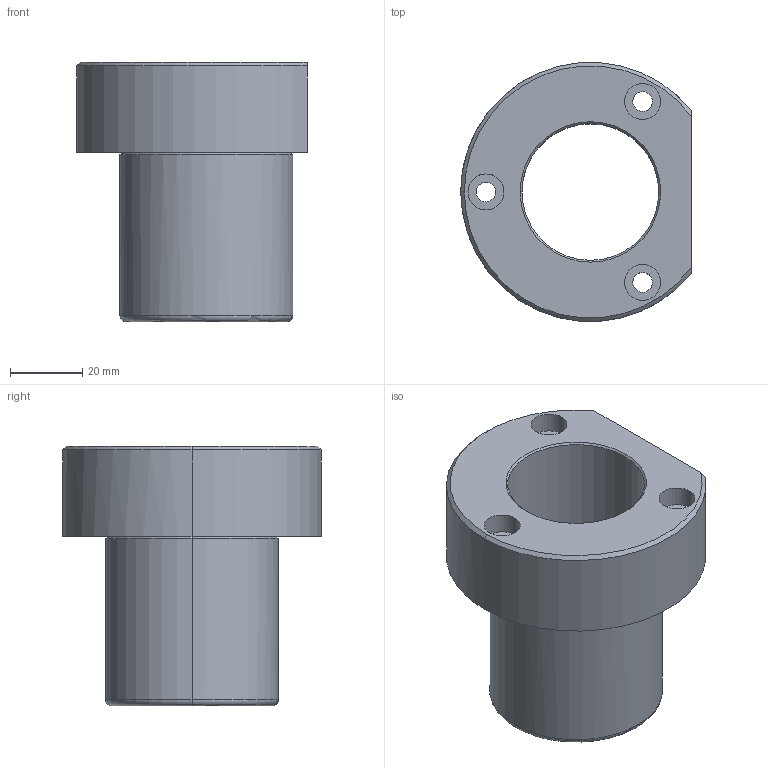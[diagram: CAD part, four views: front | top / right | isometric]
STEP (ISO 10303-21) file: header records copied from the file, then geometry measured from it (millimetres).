
FILE_DESCRIPTION(('CATIA V5 STEP Exchange'),'2;1');
FILE_NAME('C:\Users\Utente\Desktop\IO LAVORO\3D X SITO CF\X SITO\737\737-30.stp','2021-01-17T17:04:07+00:00',('none'),('none'),'CATIA Version 5 Release 20 GA (IN-10)','CATIA V5 STEP AP203','none');
FILE_SCHEMA(('CONFIG_CONTROL_DESIGN'));
Length unit declared in the file: millimetre
Products named in the file (1): 737-30
Bounding box: 64 x 71.82 x 72 mm (x, y, z)
Volume: 95952.3 mm3; surface area: 27983.1 mm2
Topology: 1 solids, 1 shells, 37 faces, 82 edges, 51 vertices
Faces by surface type: cylinder 18, plane 7, cone 6, torus 6
Entity records: 1250 total; most frequent: CARTESIAN_POINT 405, ORIENTED_EDGE 164, DIRECTION 141, EDGE_CURVE 82, AXIS2_PLACEMENT_3D 79, VERTEX_POINT 51, EDGE_LOOP 49, CIRCLE 41
